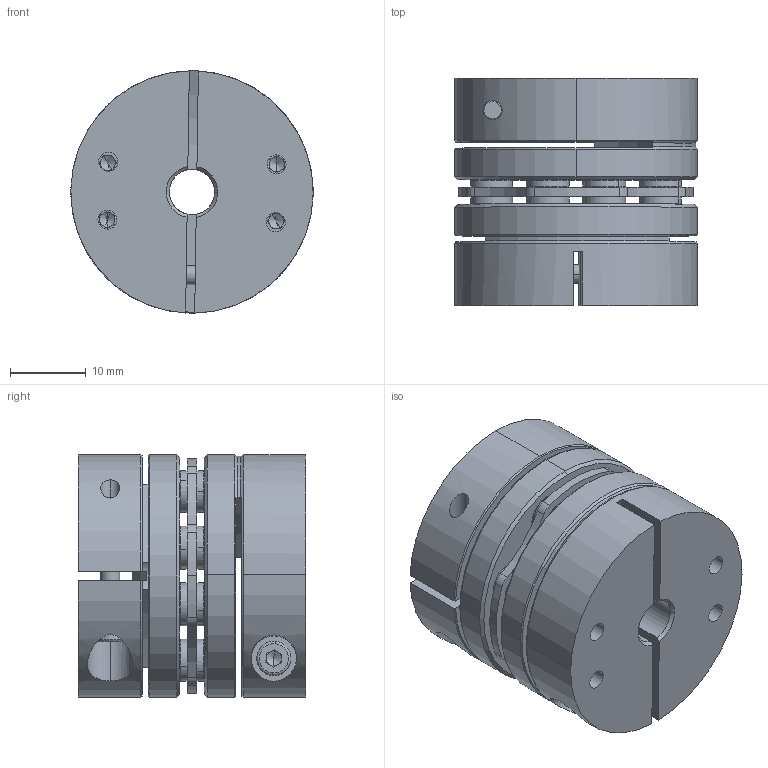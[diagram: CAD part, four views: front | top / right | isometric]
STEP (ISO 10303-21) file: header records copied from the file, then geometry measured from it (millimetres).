
FILE_DESCRIPTION (( 'STEP AP203' ), '1' );
FILE_NAME ('LDG-32-B1-6-6.STEP', '2021-10-28T05:04:38', ( '' ), ( '' ), 'SwSTEP 2.0', 'SolidWorks 2018', '' );
FILE_SCHEMA (( 'CONFIG_CONTROL_DESIGN' ));
Length unit declared in the file: millimetre
Products named in the file (2): 錨璃5^LDG-32蚾饜芞1; LDG-32-B1-6-6
Assembly tree (1 placements, depth 2):
  LDG-32-B1-6-6
    錨璃5^LDG-32蚾饜芞1
Bounding box: 32 x 30 x 32 mm (x, y, z)
Volume: 19089.1 mm3; surface area: 13420.2 mm2
Topology: 1 solids, 11 shells, 795 faces, 1967 edges, 1216 vertices
Faces by surface type: cylinder 301, plane 244, cone 230, torus 20
Entity records: 24195 total; most frequent: CARTESIAN_POINT 4476, DIRECTION 4465, ORIENTED_EDGE 3878, EDGE_CURVE 1939, AXIS2_PLACEMENT_3D 1819, VERTEX_POINT 1216, CIRCLE 1020, EDGE_LOOP 939
